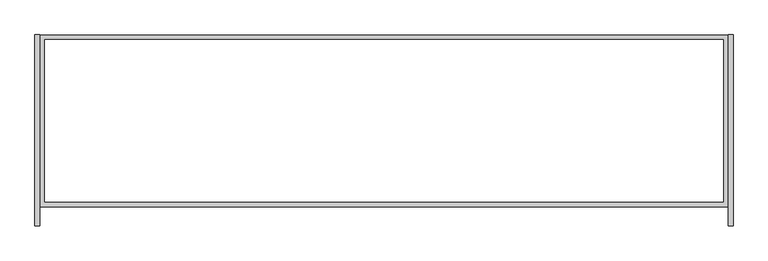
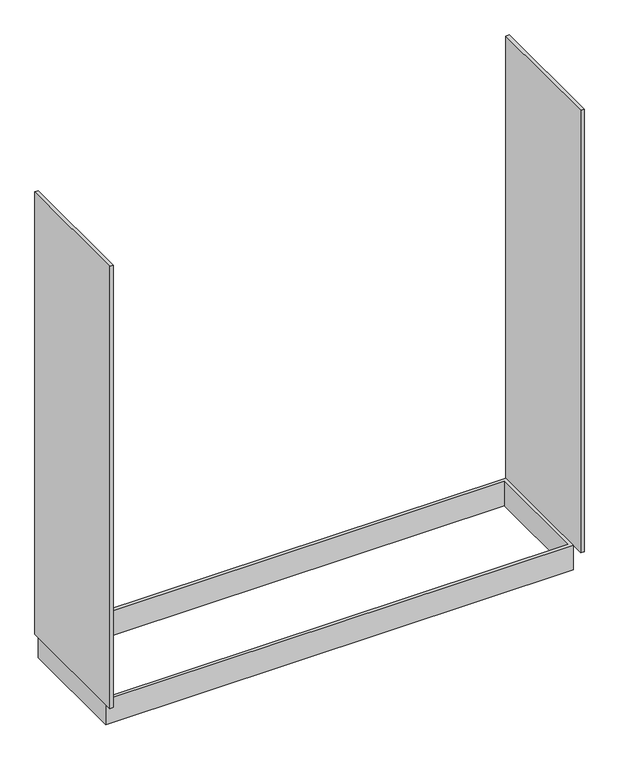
"""IFC4 building model written with IfcOpenShell, lengths in millimetres: furniture geometry, Lockers-Bay-Duracube-End of Trip : LPM-1900h x 500d with 100h x 50d Plinth."""

from ifc_helpers import new_model, si_unit, frame, origin, origin_with_axes, place, context, project, spatial, polyline, outline, extrude, source, transform, mapped, element, save


def furniture_fe364a06(model_context):
    return source(origin(), model_context, "Body", "SweptSolid", [
        extrude(outline(polyline([(1813.0, 250.0), (1813.0, -200.0), (13.0, -200.0), (13.0, 250.0), (1813.0, 250.0)]), holes=[polyline([(1800.0, -187.0), (1800.0, 237.0), (26.0, 237.0), (26.0, -187.0), (1800.0, -187.0)])]), origin_with_axes(), (0.0, 0.0, 1.0), 100.0),
        extrude(outline(polyline([(1813.0, 250.0), (1826.0, 250.0), (1826.0, -250.0), (1813.0, -250.0), (1813.0, 250.0)])), frame((0.0, 0.0, 100.0), z_axis=(0.0, 0.0, 1.0), x_axis=(1.0, 0.0, 0.0)), (0.0, 0.0, 1.0), 1800.0),
        extrude(outline(polyline([(0.0, 250.0), (13.0, 250.0), (13.0, -250.0), (0.0, -250.0), (0.0, 250.0)])), frame((0.0, 0.0, 100.0), z_axis=(0.0, 0.0, 1.0), x_axis=(1.0, 0.0, 0.0)), (0.0, 0.0, 1.0), 1800.0),
    ])


if __name__ == "__main__":
    model = new_model("IFC4")
    model_context = context("Model", 3, world=origin())
    ifc_project = project(units=[si_unit("LENGTHUNIT", "METRE", prefix="MILLI")], contexts=[model_context])
    site = spatial("IfcSite", under=ifc_project)
    building = spatial("IfcBuilding", under=site)
    placement = place(None, origin())
    furniture_shape = furniture_fe364a06(model_context)
    element("IfcFurniture", 1, ObjectType="Lockers-Bay-Duracube-End of Trip : LPM-1900h x 500d with 100h x 50d Plinth", at=placement, inside=building, context=model_context, shape_type="MappedRepresentation", body=[
        mapped(furniture_shape, transform((0.0, 0.0, 0.0), x_axis=(1.0, 0.0, 0.0), y_axis=(0.0, 1.0, 0.0), z_axis=(0.0, 0.0, 1.0))),
    ])
    save(model, "model.ifc")
